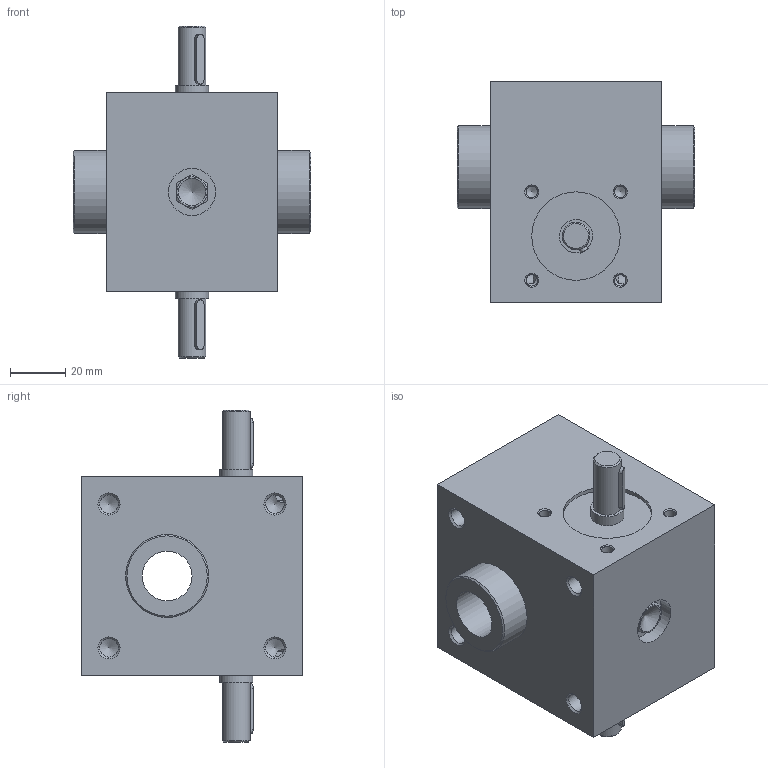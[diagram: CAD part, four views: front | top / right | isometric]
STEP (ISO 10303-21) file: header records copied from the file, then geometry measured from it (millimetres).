
FILE_DESCRIPTION(/* description */ (''),/* implementation_level */ '2;1');
FILE_NAME(/* name */ 'D:\FOLDER Tomasz Michałek\pliki z pulpitu\Katalogi przekładni\Podnośniki śrubowe\Pivexin Technology\Podnosniki - potrzebne\Modele podnosnikow\N\SG5\M1-N-161\SG5-N-L.stp',/* time_stamp */ '2016-05-17T22:22:42+02:00',/* author */ ('Tomasz'),/* organization */ (''),/* preprocessor_version */ 'ST-DEVELOPER v16.1',/* originating_system */ 'Autodesk Inventor 2016',/* authorisation */ '');
FILE_SCHEMA (('AUTOMOTIVE_DESIGN { 1 0 10303 214 3 1 1 }'));
Length unit declared in the file: millimetre
Products named in the file (3): SG5-N_obudowa; SG5-N_slimak; SG5-N-L
Assembly tree (2 placements, depth 2):
  SG5-N-L
    SG5-N_obudowa
    SG5-N_slimak
Bounding box: 86 x 80 x 120 mm (x, y, z)
Volume: 347791.3 mm3; surface area: 47901.8 mm2
Topology: 2 solids, 2 shells, 103 faces, 253 edges, 158 vertices
Faces by surface type: cone 43, cylinder 32, plane 28
Full cylindrical faces by diameter (mm): 4.134 x8, 6.647 x8, 10 x2, 12 x2, 17 x1, 18 x1, 30 x2, 32 x2
Entity records: 2652 total; most frequent: CARTESIAN_POINT 652, DIRECTION 418, ORIENTED_EDGE 310, AXIS2_PLACEMENT_3D 189, EDGE_LOOP 178, EDGE_CURVE 155, VERTEX_POINT 123, FACE_OUTER_BOUND 101
